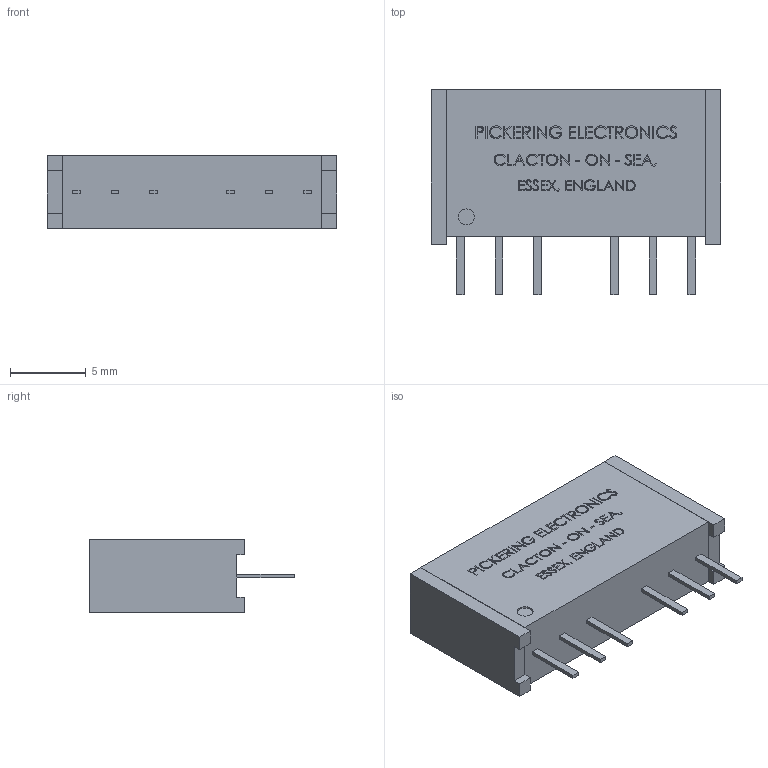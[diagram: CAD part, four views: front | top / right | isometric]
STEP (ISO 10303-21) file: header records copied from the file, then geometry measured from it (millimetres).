
FILE_DESCRIPTION (( 'STEP AP203' ), '1' );
FILE_NAME ('107-2-A-x-xx.STEP', '2010-06-30T13:09:27', ( ' ' ), ( '' ), 'SwSTEP 2.0', 'SolidWorks 2009', '' );
FILE_SCHEMA (( 'CONFIG_CONTROL_DESIGN' ));
Products named in the file (1): 107-2-A-x-xx
Bounding box: 19.1 x 13.5 x 4.8 mm (x, y, z)
Volume: 892.3 mm3; surface area: 905 mm2
Topology: 9 solids, 9 shells, 1002 faces, 2640 edges, 1760 vertices
Faces by surface type: plane 733, bspline 267, cylinder 2
Entity records: 45559 total; most frequent: CARTESIAN_POINT 22502, ORIENTED_EDGE 5280, DIRECTION 3582, EDGE_CURVE 2640, LINE 2102, VECTOR 2102, VERTEX_POINT 1760, EDGE_LOOP 1106
